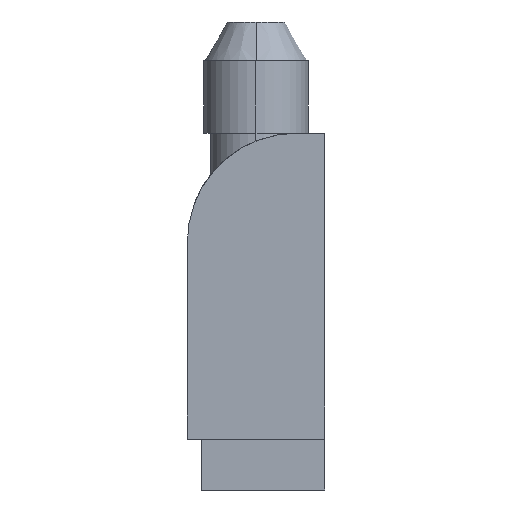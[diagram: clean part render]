
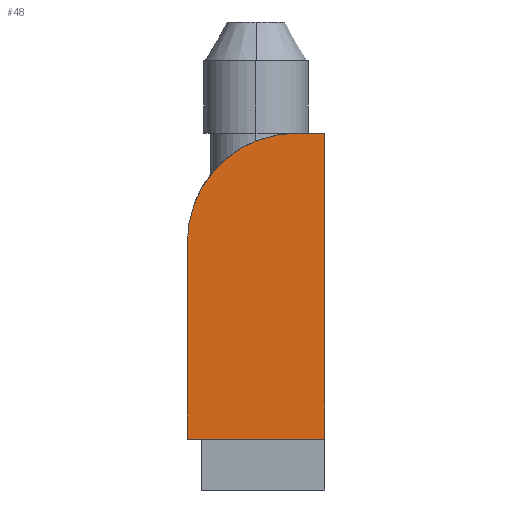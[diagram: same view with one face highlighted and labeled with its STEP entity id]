
A CAD part, left-side view. The second image highlights one B-rep face of the part: STEP entity #48.
In plain terms, the highlighted planar face has unit normal (-1, 0, 0).
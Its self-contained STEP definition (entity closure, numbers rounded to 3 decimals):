
#13 = VERTEX_POINT ( 'NONE', #881 ) ;
#29 = EDGE_CURVE ( 'NONE', #13, #30, #782, .T. ) ;
#30 = VERTEX_POINT ( 'NONE', #778 ) ;
#47 = EDGE_CURVE ( 'NONE', #233, #203, #861, .T. ) ;
#48 = ADVANCED_FACE ( 'NONE', ( #857 ), #856, .F. ) ;
#49 = EDGE_LOOP ( 'NONE', ( #50, #235, #238, #240, #241 ) ) ;
#50 = ORIENTED_EDGE ( 'NONE', *, *, #29, .F. ) ;
#203 = VERTEX_POINT ( 'NONE', #1393 ) ;
#233 = VERTEX_POINT ( 'NONE', #1369 ) ;
#235 = ORIENTED_EDGE ( 'NONE', *, *, #236, .T. ) ;
#236 = EDGE_CURVE ( 'NONE', #13, #237, #1364, .T. ) ;
#237 = VERTEX_POINT ( 'NONE', #1359 ) ;
#238 = ORIENTED_EDGE ( 'NONE', *, *, #239, .F. ) ;
#239 = EDGE_CURVE ( 'NONE', #233, #237, #1358, .T. ) ;
#240 = ORIENTED_EDGE ( 'NONE', *, *, #47, .T. ) ;
#241 = ORIENTED_EDGE ( 'NONE', *, *, #290, .T. ) ;
#290 = EDGE_CURVE ( 'NONE', #203, #30, #1291, .T. ) ;
#778 = CARTESIAN_POINT ( 'NONE',  ( -63.5, -9.45, 16.252 ) ) ;
#779 = DIRECTION ( 'NONE',  ( 0., -1., 0. ) ) ;
#780 = VECTOR ( 'NONE', #779, 1000. ) ;
#781 = CARTESIAN_POINT ( 'NONE',  ( -63.5, 9.45, 16.252 ) ) ;
#782 = LINE ( 'NONE', #781, #780 ) ;
#852 = DIRECTION ( 'NONE',  ( 0., 0., -1. ) ) ;
#853 = DIRECTION ( 'NONE',  ( 1., 0., 0. ) ) ;
#854 = CARTESIAN_POINT ( 'NONE',  ( -63.5, 9.45, -25.798 ) ) ;
#855 = AXIS2_PLACEMENT_3D ( 'NONE', #854, #853, #852 ) ;
#856 = PLANE ( 'NONE',  #855 ) ;
#857 = FACE_OUTER_BOUND ( 'NONE', #49, .T. ) ;
#858 = DIRECTION ( 'NONE',  ( 0., -1., 0. ) ) ;
#859 = VECTOR ( 'NONE', #858, 1000. ) ;
#860 = CARTESIAN_POINT ( 'NONE',  ( -63.5, 9.45, -25.798 ) ) ;
#861 = LINE ( 'NONE', #860, #859 ) ;
#881 = CARTESIAN_POINT ( 'NONE',  ( -63.5, -5.55, 16.252 ) ) ;
#1288 = DIRECTION ( 'NONE',  ( 0., 0., 1. ) ) ;
#1289 = VECTOR ( 'NONE', #1288, 1000. ) ;
#1290 = CARTESIAN_POINT ( 'NONE',  ( -63.5, -9.45, -25.798 ) ) ;
#1291 = LINE ( 'NONE', #1290, #1289 ) ;
#1355 = DIRECTION ( 'NONE',  ( 0., 0., 1. ) ) ;
#1356 = VECTOR ( 'NONE', #1355, 1000. ) ;
#1357 = CARTESIAN_POINT ( 'NONE',  ( -63.5, 9.45, -25.798 ) ) ;
#1358 = LINE ( 'NONE', #1357, #1356 ) ;
#1359 = CARTESIAN_POINT ( 'NONE',  ( -63.5, 9.45, 1.252 ) ) ;
#1360 = DIRECTION ( 'NONE',  ( 0., 0., -1. ) ) ;
#1361 = DIRECTION ( 'NONE',  ( -1., 0., 0. ) ) ;
#1362 = CARTESIAN_POINT ( 'NONE',  ( -63.5, -5.55, 1.252 ) ) ;
#1363 = AXIS2_PLACEMENT_3D ( 'NONE', #1362, #1361, #1360 ) ;
#1364 = CIRCLE ( 'NONE', #1363, 15. ) ;
#1369 = CARTESIAN_POINT ( 'NONE',  ( -63.5, 9.45, -25.798 ) ) ;
#1393 = CARTESIAN_POINT ( 'NONE',  ( -63.5, -9.45, -25.798 ) ) ;
